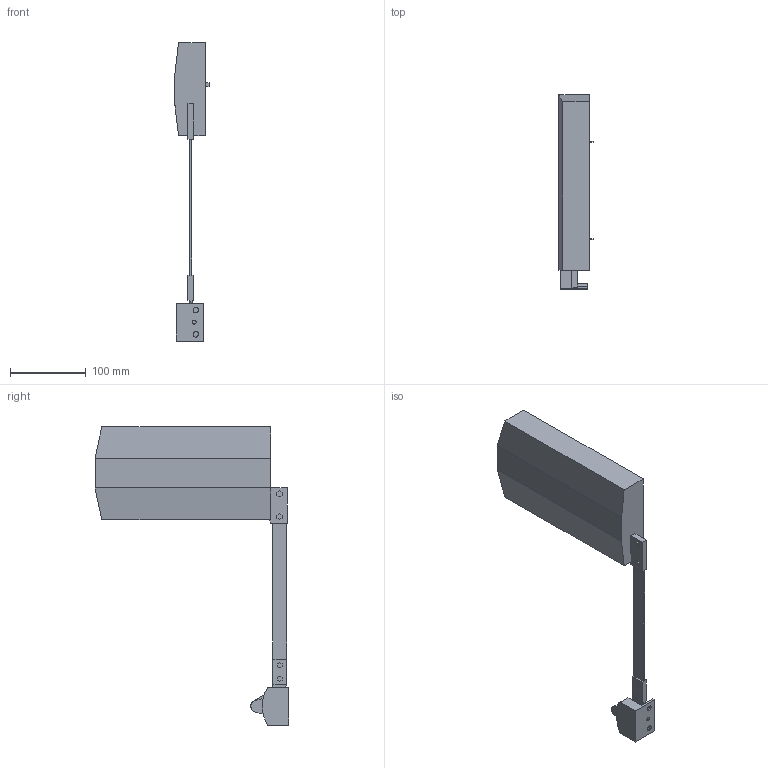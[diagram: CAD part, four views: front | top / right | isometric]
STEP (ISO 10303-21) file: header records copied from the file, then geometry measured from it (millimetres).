
FILE_DESCRIPTION (( 'STEP AP214' ), '1' );
FILE_NAME ('F152145239_KINVARO F20 SET WITH BKT_TYP 3C_R_CLOSED.step', '2021-02-17T08:17:43', ( '' ), ( '' ), 'SwSTEP 2.0', 'SolidWorks 2019', '' );
FILE_SCHEMA (( 'AUTOMOTIVE_DESIGN' ));
Length unit declared in the file: millimetre
Products named in the file (1): F152145239_KINVARO F20 SET WITH BKT_TYP 3C_R_CLOSED
Bounding box: 45.35 x 255.03 x 392.73 mm (x, y, z)
Volume: 1133884 mm3; surface area: 104614.5 mm2
Topology: 1 solids, 1 shells, 119 faces, 294 edges, 196 vertices
Faces by surface type: plane 93, cylinder 20, bspline 6
Entity records: 4280 total; most frequent: CARTESIAN_POINT 1408, ORIENTED_EDGE 588, DIRECTION 552, EDGE_CURVE 294, LINE 240, VECTOR 240, VERTEX_POINT 196, AXIS2_PLACEMENT_3D 156
